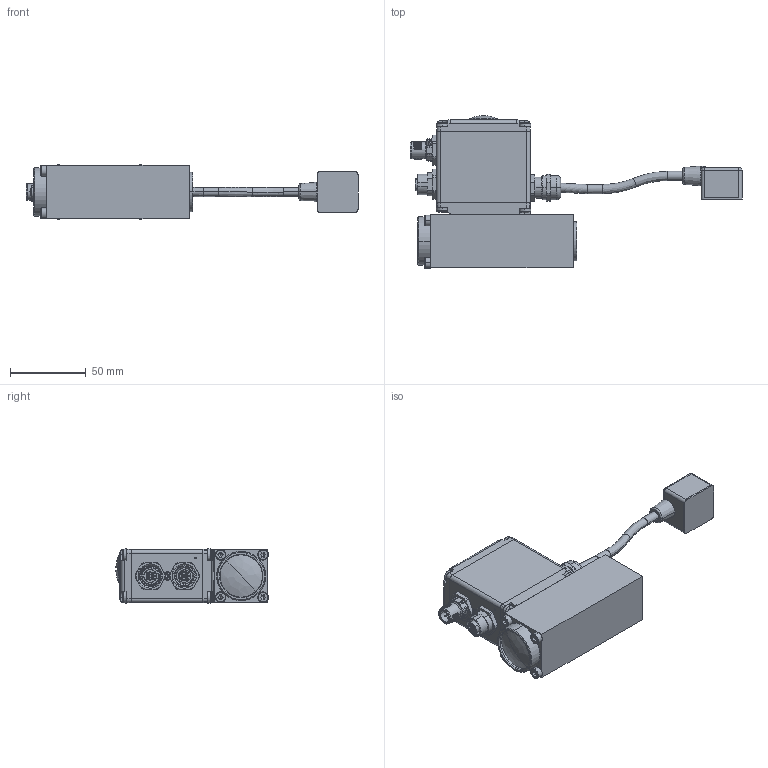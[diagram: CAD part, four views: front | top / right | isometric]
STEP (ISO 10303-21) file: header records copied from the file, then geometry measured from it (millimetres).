
FILE_DESCRIPTION (( 'STEP AP203' ), '1' );
FILE_NAME ('PI35MEV-P1-24P.step', '2013-07-29T06:19:12', ( 'Wandfluh AG' ), ( 'Wandfluh AG' ), 'SwSTEP 2.0', 'SolidWorks 2012', '' );
FILE_SCHEMA (( 'CONFIG_CONTROL_DESIGN' ));
Products named in the file (1): PI35MEV-P1-24P
Bounding box: 219.2 x 100.79 x 35.9 mm (x, y, z)
Volume: 210760.9 mm3; surface area: 85168.3 mm2
Topology: 35 solids, 35 shells, 3516 faces, 9434 edges, 6073 vertices
Faces by surface type: plane 1760, cylinder 1112, cone 258, torus 224, bspline 133, sphere 29
Entity records: 115986 total; most frequent: CARTESIAN_POINT 28829, ORIENTED_EDGE 18752, DIRECTION 17447, EDGE_CURVE 9376, VERTEX_POINT 6073, LINE 5887, VECTOR 5887, AXIS2_PLACEMENT_3D 5780
